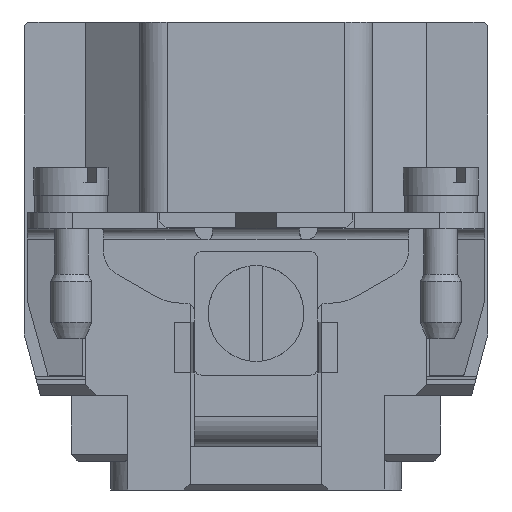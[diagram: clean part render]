
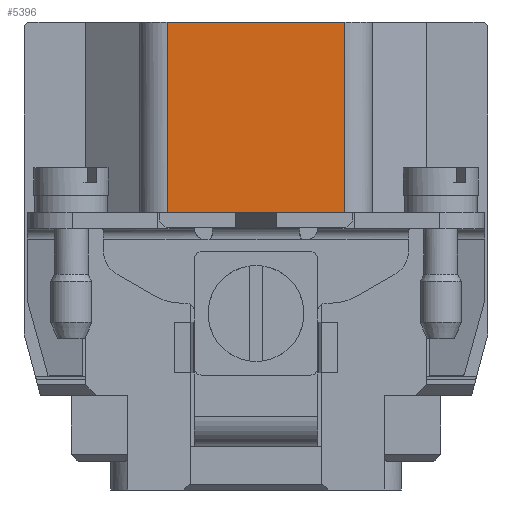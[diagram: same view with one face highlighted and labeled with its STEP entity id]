
A CAD part, left-side view. The second image highlights one B-rep face of the part: STEP entity #5396.
In plain terms, the highlighted planar face has unit normal (-1, 0, 0).
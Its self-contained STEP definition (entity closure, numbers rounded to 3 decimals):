
#5396=ADVANCED_FACE('',(#8021),#7133,.T.);
#7133=PLANE('',#32684);
#8021=FACE_OUTER_BOUND('',#9195,.T.);
#9195=EDGE_LOOP('',(#12784,#12785,#12786,#12787));
#12784=ORIENTED_EDGE('',*,*,#22759,.T.);
#12785=ORIENTED_EDGE('',*,*,#21854,.T.);
#12786=ORIENTED_EDGE('',*,*,#22760,.T.);
#12787=ORIENTED_EDGE('',*,*,#21880,.T.);
#19145=VERTEX_POINT('',#43912);
#19159=VERTEX_POINT('',#43940);
#19185=VERTEX_POINT('',#43995);
#19186=VERTEX_POINT('',#43997);
#21854=EDGE_CURVE('',#19145,#19159,#27206,.T.);
#21880=EDGE_CURVE('',#19186,#19185,#27230,.T.);
#22759=EDGE_CURVE('',#19185,#19145,#27893,.T.);
#22760=EDGE_CURVE('',#19159,#19186,#27894,.T.);
#27206=LINE('',#43941,#29565);
#27230=LINE('',#43996,#29589);
#27893=LINE('',#45938,#30252);
#27894=LINE('',#45939,#30253);
#29565=VECTOR('',#35567,1.);
#29589=VECTOR('',#35601,1.);
#30252=VECTOR('',#36876,1.);
#30253=VECTOR('',#36877,1.);
#32684=AXIS2_PLACEMENT_3D('',#45940,#36878,#36879);
#35567=DIRECTION('',(0.,-1.,0.));
#35601=DIRECTION('',(0.,1.,0.));
#36876=DIRECTION('',(0.,0.,-1.));
#36877=DIRECTION('',(0.,0.,1.));
#36878=DIRECTION('',(-1.,0.,0.));
#36879=DIRECTION('',(0.,0.,1.));
#43912=CARTESIAN_POINT('',(-55.375,6.5,1.2));
#43940=CARTESIAN_POINT('',(-55.375,-6.5,1.2));
#43941=CARTESIAN_POINT('',(-55.375,-8.5,1.2));
#43995=CARTESIAN_POINT('',(-55.375,6.5,15.1));
#43996=CARTESIAN_POINT('',(-55.375,-8.5,15.1));
#43997=CARTESIAN_POINT('',(-55.375,-6.5,15.1));
#45938=CARTESIAN_POINT('',(-55.375,6.5,15.1));
#45939=CARTESIAN_POINT('',(-55.375,-6.5,15.1));
#45940=CARTESIAN_POINT('',(-55.375,-8.5,15.1));
